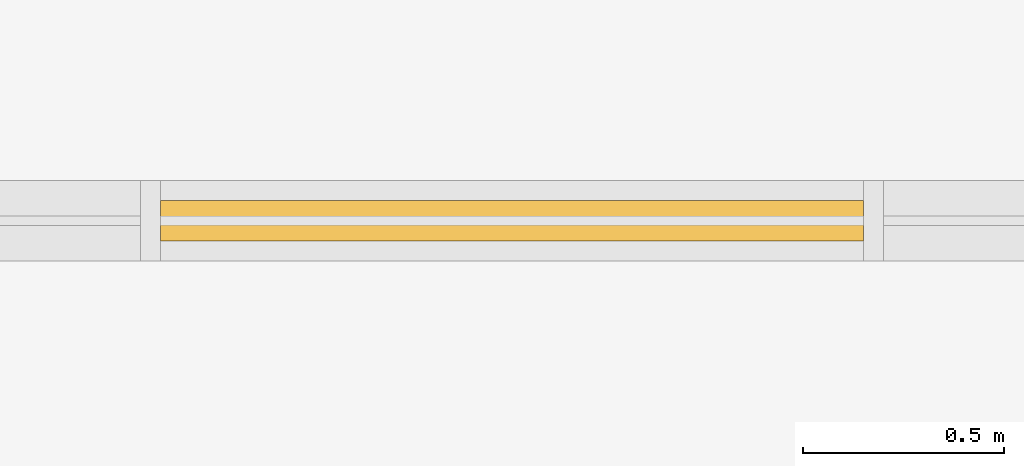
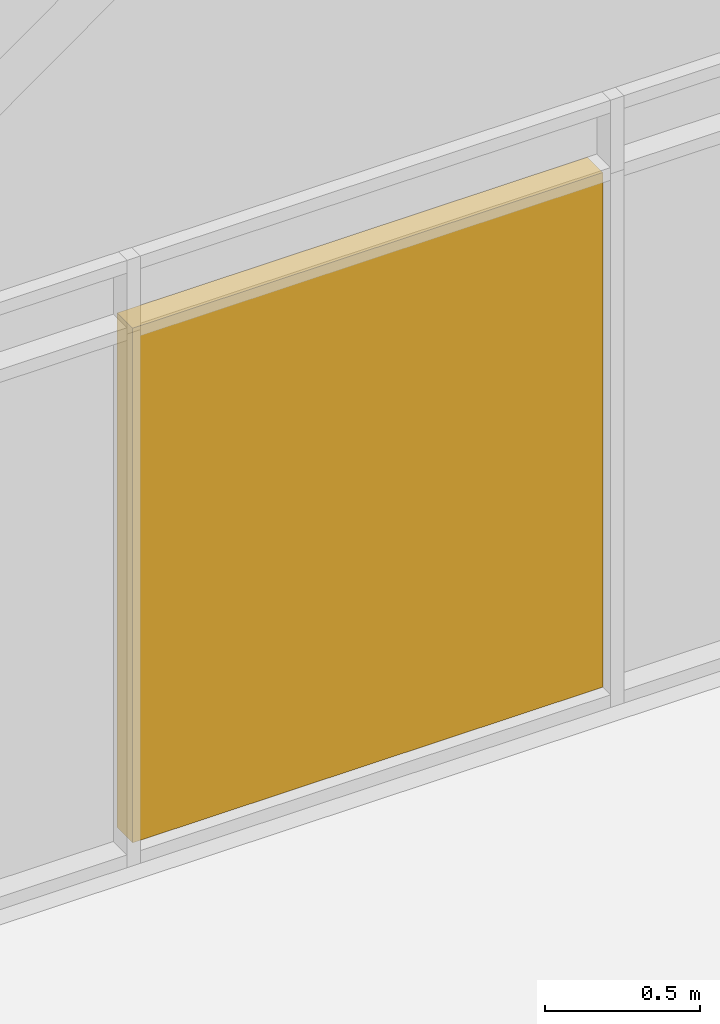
# One storey, part 25 of 30: 1 curtain wall, 1 element without a shape of its own.
"""IFC2X3 building model written with IfcOpenShell, lengths in millimetres."""

from ifc_helpers import new_model, entity, si_unit, converted_unit, derived_unit, direction, frame, frame_2d, origin, place, context, subcontext, project, spatial, rectangle, extrude, material, layer, layer_set, layer_usage, type_object, element, aggregate, save


model = new_model("IFC2X3")

# Units and contexts
model_context = context("Model", 3, precision=0.01, world=origin(), true_north=direction((6.123031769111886e-17, 1.0)))
body_context = subcontext(model_context, "Body", "Model", "MODEL_VIEW")
ifc_project = project(units=[si_unit("LENGTHUNIT", "METRE", prefix="MILLI"), si_unit("AREAUNIT", "SQUARE_METRE"), si_unit("VOLUMEUNIT", "CUBIC_METRE"), converted_unit("PLANEANGLEUNIT", "DEGREE", entity("IfcRatioMeasure", 0.017453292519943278), si_unit("PLANEANGLEUNIT", "RADIAN"), dimensions=[0, 0, 0, 0, 0, 0, 0]), si_unit("MASSUNIT", "GRAM", prefix="KILO"), derived_unit("MASSDENSITYUNIT", [(si_unit("MASSUNIT", "GRAM", prefix="KILO"), 1), (si_unit("LENGTHUNIT", "METRE"), -3)]), derived_unit("MOMENTOFINERTIAUNIT", [(si_unit("LENGTHUNIT", "METRE"), 4)]), si_unit("TIMEUNIT", "SECOND"), si_unit("FREQUENCYUNIT", "HERTZ"), si_unit("THERMODYNAMICTEMPERATUREUNIT", "DEGREE_CELSIUS"), derived_unit("THERMALTRANSMITTANCEUNIT", [(si_unit("MASSUNIT", "GRAM", prefix="KILO"), 1), (si_unit("THERMODYNAMICTEMPERATUREUNIT", "KELVIN"), -1), (si_unit("TIMEUNIT", "SECOND"), -3)]), derived_unit("VOLUMETRICFLOWRATEUNIT", [(si_unit("LENGTHUNIT", "METRE"), 3), (si_unit("TIMEUNIT", "SECOND"), -1)]), derived_unit("MASSFLOWRATEUNIT", [(si_unit("MASSUNIT", "GRAM", prefix="KILO"), 1), (si_unit("TIMEUNIT", "SECOND"), -1)]), derived_unit("ROTATIONALFREQUENCYUNIT", [(si_unit("TIMEUNIT", "SECOND"), -1)]), si_unit("ELECTRICCURRENTUNIT", "AMPERE"), si_unit("ELECTRICVOLTAGEUNIT", "VOLT"), si_unit("POWERUNIT", "WATT"), si_unit("FORCEUNIT", "NEWTON", prefix="KILO"), si_unit("ILLUMINANCEUNIT", "LUX"), si_unit("LUMINOUSFLUXUNIT", "LUMEN"), si_unit("LUMINOUSINTENSITYUNIT", "CANDELA"), derived_unit("USERDEFINED", [(si_unit("MASSUNIT", "GRAM", prefix="KILO"), -1), (si_unit("LENGTHUNIT", "METRE"), -2), (si_unit("TIMEUNIT", "SECOND"), 3), (si_unit("LUMINOUSFLUXUNIT", "LUMEN"), 1)]), derived_unit("SOUNDPOWERUNIT", [(si_unit("MASSUNIT", "GRAM", prefix="KILO"), 1), (si_unit("LENGTHUNIT", "METRE"), 2), (si_unit("TIMEUNIT", "SECOND"), -3)]), derived_unit("SOUNDPRESSUREUNIT", [(si_unit("MASSUNIT", "GRAM", prefix="KILO"), 1), (si_unit("LENGTHUNIT", "METRE"), -1), (si_unit("TIMEUNIT", "SECOND"), -2)]), derived_unit("LINEARVELOCITYUNIT", [(si_unit("LENGTHUNIT", "METRE"), 1), (si_unit("TIMEUNIT", "SECOND"), -1)]), si_unit("PRESSUREUNIT", "PASCAL"), derived_unit("USERDEFINED", [(si_unit("LENGTHUNIT", "METRE"), -2), (si_unit("MASSUNIT", "GRAM", prefix="KILO"), 1), (si_unit("TIMEUNIT", "SECOND"), -2)]), derived_unit("LINEARFORCEUNIT", [(si_unit("MASSUNIT", "GRAM", prefix="KILO"), 1), (si_unit("LENGTHUNIT", "METRE"), 1), (si_unit("TIMEUNIT", "SECOND"), -2), (si_unit("LENGTHUNIT", "METRE"), -1)]), derived_unit("PLANARFORCEUNIT", [(si_unit("MASSUNIT", "GRAM", prefix="KILO"), 1), (si_unit("LENGTHUNIT", "METRE"), 1), (si_unit("TIMEUNIT", "SECOND"), -2), (si_unit("LENGTHUNIT", "METRE"), -2)])], contexts=[model_context])

# Site, building, storey
site_placement = place(None, frame((-14167.972527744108, -657.2125860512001, 0.0)))
site = spatial("IfcSite", under=ifc_project, at=site_placement, Name="Default", CompositionType="ELEMENT")
building_placement = place(site_placement, origin())
building = spatial("IfcBuilding", under=site, at=building_placement, Name="Sample Building", CompositionType="ELEMENT")
storey_placement = place(building_placement, frame((0.0, 0.0, -10100.0)))
storey = spatial("IfcBuildingStorey", under=building, at=storey_placement, Name="지하2층", CompositionType="ELEMENT", Elevation=-10100.0)

# Curtain walls
curtain_wall_type_1 = type_object("IfcCurtainWallType", Name="커튼월:CW112-스테인리스 스틸 커튼월", PredefinedType="NOTDEFINED")
curtain_wall_1_placement = place(storey_placement, frame((0.0, 0.0, 10100.0)))
curtain_wall_1 = element("IfcCurtainWall", 1, at=curtain_wall_1_placement, inside=storey, type_object=curtain_wall_type_1, Name="커튼월:CW112-스테인리스 스틸 커튼월", ObjectType="커튼월:CW112-스테인리스 스틸 커튼월")
ifc_material = material(Name="KBIMS-콘크리트")
ifc_layer = layer(ifc_material, 100.0)
ifc_layer_set = layer_set([ifc_layer], Name="커튼월:CW112-스테인리스 스틸 커튼월")
ifc_layer_usage = layer_usage(ifc_layer_set, "AXIS2", "NEGATIVE", 50.0)
curtain_wall_type_2 = type_object("IfcCurtainWallType", Name="기본 벽:WA111-철근콘크리트구조 벽 100mm", PredefinedType="NOTDEFINED", material=ifc_layer_set)
curtain_wall_2_placement = place(storey_placement, frame((32142.97249113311, 12957.212586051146, 250.0)))
curtain_wall_2 = element("IfcCurtainWall", 2, at=curtain_wall_2_placement, type_object=curtain_wall_type_2, material=ifc_layer_usage, Name="기본 벽:WA111-철근콘크리트구조 벽 100mm", ObjectType="기본 벽:WA111-철근콘크리트구조 벽 100mm", context=body_context, shape_type="SweptSolid", body=[
    extrude(rectangle(XDim=1750.0000000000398, YDim=100.00000000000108, at=frame_2d((875.0000000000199, -1.3287149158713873e-12), x_axis=(-1.0, 0.0))), origin(), (0.0, 0.0, 1.0), 2024.9999999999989),
])
aggregate(curtain_wall_1, [curtain_wall_2])

save(model, "model.ifc")
